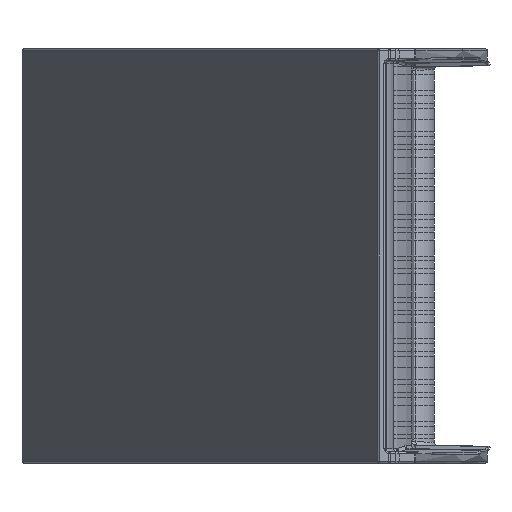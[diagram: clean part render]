
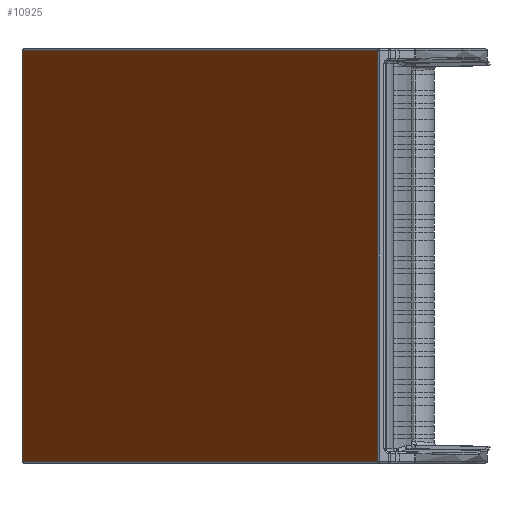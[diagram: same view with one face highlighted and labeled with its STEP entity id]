
A CAD part, left-side view. The second image highlights one B-rep face of the part: STEP entity #10925.
In plain terms, the highlighted planar face has unit normal (-0.469, 0.883, 0).
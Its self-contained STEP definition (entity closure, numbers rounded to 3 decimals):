
#43 = ORIENTED_EDGE ( 'NONE', *, *, #17164, .T. ) ;
#314 = EDGE_CURVE ( 'NONE', #18817, #1653, #28766, .T. ) ;
#372 = LINE ( 'NONE', #19452, #8888 ) ;
#1653 = VERTEX_POINT ( 'NONE', #2317 ) ;
#2308 = DIRECTION ( 'NONE',  ( 0., 0., -1. ) ) ;
#2317 = CARTESIAN_POINT ( 'NONE',  ( 217.676, 115.74, 0.5 ) ) ;
#2552 = VECTOR ( 'NONE', #27343, 1000. ) ;
#4376 = ORIENTED_EDGE ( 'NONE', *, *, #29473, .T. ) ;
#4960 = CARTESIAN_POINT ( 'NONE',  ( 217.676, 115.74, 130. ) ) ;
#5232 = VERTEX_POINT ( 'NONE', #28565 ) ;
#5418 = LINE ( 'NONE', #12936, #2552 ) ;
#5990 = CARTESIAN_POINT ( 'NONE',  ( 5.666, 3.013, 0.5 ) ) ;
#6452 = DIRECTION ( 'NONE',  ( -0.469, 0.883, 0. ) ) ;
#8888 = VECTOR ( 'NONE', #26372, 1000. ) ;
#10925 = ADVANCED_FACE ( 'NONE', ( #29784 ), #20683, .T. ) ;
#11544 = EDGE_CURVE ( 'NONE', #5232, #18817, #5418, .T. ) ;
#12936 = CARTESIAN_POINT ( 'NONE',  ( 0., 0., 129.5 ) ) ;
#13041 = CARTESIAN_POINT ( 'NONE',  ( 5.666, 3.013, 130. ) ) ;
#16640 = ORIENTED_EDGE ( 'NONE', *, *, #314, .T. ) ;
#17164 = EDGE_CURVE ( 'NONE', #18350, #5232, #20069, .T. ) ;
#18186 = CARTESIAN_POINT ( 'NONE',  ( 0., 0., 130. ) ) ;
#18350 = VERTEX_POINT ( 'NONE', #5990 ) ;
#18817 = VERTEX_POINT ( 'NONE', #24554 ) ;
#19452 = CARTESIAN_POINT ( 'NONE',  ( 5.666, 3.013, 0.5 ) ) ;
#20069 = LINE ( 'NONE', #13041, #21525 ) ;
#20683 = PLANE ( 'NONE',  #24577 ) ;
#21525 = VECTOR ( 'NONE', #29922, 1000. ) ;
#22618 = VECTOR ( 'NONE', #2308, 1000. ) ;
#24554 = CARTESIAN_POINT ( 'NONE',  ( 217.676, 115.74, 129.5 ) ) ;
#24577 = AXIS2_PLACEMENT_3D ( 'NONE', #18186, #6452, #27757 ) ;
#26372 = DIRECTION ( 'NONE',  ( -0.883, -0.469, 0. ) ) ;
#27343 = DIRECTION ( 'NONE',  ( 0.883, 0.469, 0. ) ) ;
#27757 = DIRECTION ( 'NONE',  ( -0.883, -0.469, 0. ) ) ;
#28035 = ORIENTED_EDGE ( 'NONE', *, *, #11544, .T. ) ;
#28565 = CARTESIAN_POINT ( 'NONE',  ( 5.666, 3.013, 129.5 ) ) ;
#28766 = LINE ( 'NONE', #4960, #22618 ) ;
#29473 = EDGE_CURVE ( 'NONE', #1653, #18350, #372, .T. ) ;
#29784 = FACE_OUTER_BOUND ( 'NONE', #29888, .T. ) ;
#29888 = EDGE_LOOP ( 'NONE', ( #43, #28035, #16640, #4376 ) ) ;
#29922 = DIRECTION ( 'NONE',  ( 0., 0., 1. ) ) ;
